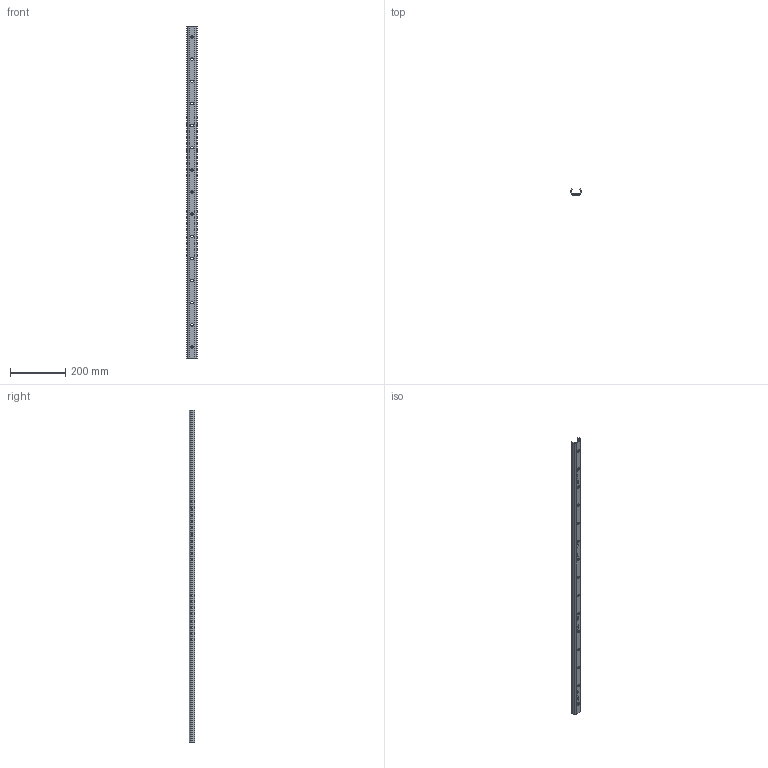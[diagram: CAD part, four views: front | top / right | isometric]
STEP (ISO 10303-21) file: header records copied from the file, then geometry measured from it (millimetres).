
FILE_DESCRIPTION(('STEP AP214'),'1');
FILE_NAME('rail_tex40-1200.stp','2019-03-08T08:33:02',('TraceParts'),('TraceParts S.A.'),'Spatial InterOp 3D',' ',' ');
FILE_SCHEMA(('automotive_design'));
Length unit declared in the file: millimetre
Products named in the file (1): rail_tex40-1200
Bounding box: 39.53 x 21 x 1200 mm (x, y, z)
Volume: 234615.5 mm3; surface area: 165487.9 mm2
Topology: 1 solids, 1 shells, 284 faces, 738 edges, 492 vertices
Faces by surface type: plane 198, bspline 44, cylinder 42
Entity records: 17703 total; most frequent: CARTESIAN_POINT 8583, ORIENTED_EDGE 1476, DIRECTION 1216, EDGE_CURVE 738, LINE 566, VECTOR 566, VERTEX_POINT 492, EDGE_LOOP 350
